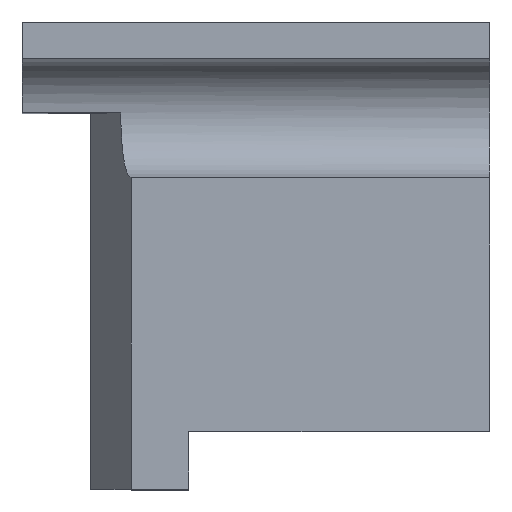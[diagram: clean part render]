
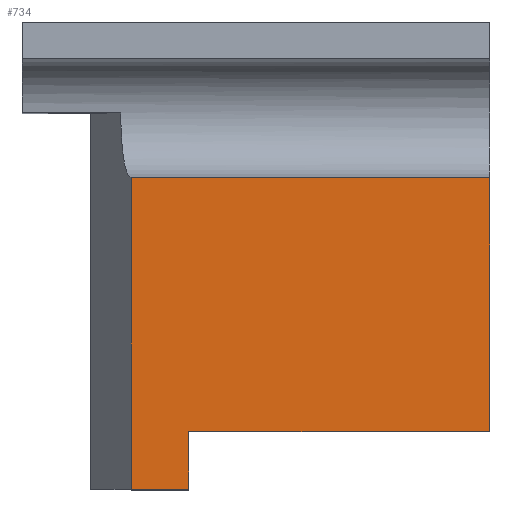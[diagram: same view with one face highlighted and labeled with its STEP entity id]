
A CAD part, top view. The second image highlights one B-rep face of the part: STEP entity #734.
In plain terms, the highlighted planar face has unit normal (0, 0, 1).
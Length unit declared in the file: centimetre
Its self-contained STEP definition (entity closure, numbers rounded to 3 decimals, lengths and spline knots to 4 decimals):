
#8 = PLANE ( 'NONE',  #495 ) ;
#20 = ORIENTED_EDGE ( 'NONE', *, *, #73, .T. ) ;
#43 = EDGE_CURVE ( 'NONE', #1212, #621, #1358, .T. ) ;
#52 = LINE ( 'NONE', #765, #150 ) ;
#71 = VECTOR ( 'NONE', #461, 100. ) ;
#73 = EDGE_CURVE ( 'NONE', #684, #987, #1134, .T. ) ;
#84 = CARTESIAN_POINT ( 'NONE',  ( 233.2688, 0., 1000. ) ) ;
#108 = CARTESIAN_POINT ( 'NONE',  ( 355.8232, 0., 1000. ) ) ;
#118 = CARTESIAN_POINT ( 'NONE',  ( 0., 0., 1000. ) ) ;
#150 = VECTOR ( 'NONE', #1426, 100. ) ;
#193 = CARTESIAN_POINT ( 'NONE',  ( 1000., 666.5322, 1000. ) ) ;
#196 = DIRECTION ( 'NONE',  ( 0., 1., 0. ) ) ;
#209 = LINE ( 'NONE', #538, #1054 ) ;
#228 = DIRECTION ( 'NONE',  ( 1., 0., 0. ) ) ;
#249 = EDGE_CURVE ( 'NONE', #1212, #686, #209, .T. ) ;
#333 = CARTESIAN_POINT ( 'NONE',  ( 1000., 666.5322, 1000. ) ) ;
#410 = EDGE_CURVE ( 'NONE', #686, #522, #910, .T. ) ;
#415 = LINE ( 'NONE', #1217, #606 ) ;
#456 = DIRECTION ( 'NONE',  ( 0., 0., 1. ) ) ;
#461 = DIRECTION ( 'NONE',  ( 1., 0., 0. ) ) ;
#479 = ORIENTED_EDGE ( 'NONE', *, *, #1047, .F. ) ;
#495 = AXIS2_PLACEMENT_3D ( 'NONE', #118, #456, #590 ) ;
#504 = VECTOR ( 'NONE', #998, 100. ) ;
#522 = VERTEX_POINT ( 'NONE', #108 ) ;
#538 = CARTESIAN_POINT ( 'NONE',  ( 233.2688, 805.7342, 1000. ) ) ;
#590 = DIRECTION ( 'NONE',  ( 1., 0., 0. ) ) ;
#606 = VECTOR ( 'NONE', #196, 100. ) ;
#621 = VERTEX_POINT ( 'NONE', #333 ) ;
#684 = VERTEX_POINT ( 'NONE', #1472 ) ;
#686 = VERTEX_POINT ( 'NONE', #84 ) ;
#698 = FACE_OUTER_BOUND ( 'NONE', #785, .T. ) ;
#734 = ADVANCED_FACE ( 'NONE', ( #698 ), #8, .T. ) ;
#758 = CARTESIAN_POINT ( 'NONE',  ( 355.8232, 123.2967, 1000. ) ) ;
#765 = CARTESIAN_POINT ( 'NONE',  ( 355.8232, 0., 1000. ) ) ;
#785 = EDGE_LOOP ( 'NONE', ( #20, #806, #907, #1184, #1080, #479 ) ) ;
#806 = ORIENTED_EDGE ( 'NONE', *, *, #1012, .T. ) ;
#907 = ORIENTED_EDGE ( 'NONE', *, *, #43, .F. ) ;
#910 = LINE ( 'NONE', #1368, #924 ) ;
#924 = VECTOR ( 'NONE', #228, 100. ) ;
#987 = VERTEX_POINT ( 'NONE', #1322 ) ;
#998 = DIRECTION ( 'NONE',  ( 1., 0., 0. ) ) ;
#1012 = EDGE_CURVE ( 'NONE', #987, #621, #415, .T. ) ;
#1047 = EDGE_CURVE ( 'NONE', #684, #522, #52, .T. ) ;
#1054 = VECTOR ( 'NONE', #1345, 100. ) ;
#1080 = ORIENTED_EDGE ( 'NONE', *, *, #410, .T. ) ;
#1134 = LINE ( 'NONE', #758, #504 ) ;
#1184 = ORIENTED_EDGE ( 'NONE', *, *, #249, .T. ) ;
#1212 = VERTEX_POINT ( 'NONE', #1395 ) ;
#1217 = CARTESIAN_POINT ( 'NONE',  ( 1000., 1000., 1000. ) ) ;
#1322 = CARTESIAN_POINT ( 'NONE',  ( 1000., 123.2967, 1000. ) ) ;
#1345 = DIRECTION ( 'NONE',  ( 0., -1., 0. ) ) ;
#1358 = LINE ( 'NONE', #193, #71 ) ;
#1368 = CARTESIAN_POINT ( 'NONE',  ( 0., 0., 1000. ) ) ;
#1395 = CARTESIAN_POINT ( 'NONE',  ( 233.2688, 666.5322, 1000. ) ) ;
#1426 = DIRECTION ( 'NONE',  ( 0., -1., 0. ) ) ;
#1472 = CARTESIAN_POINT ( 'NONE',  ( 355.8232, 123.2967, 1000. ) ) ;
